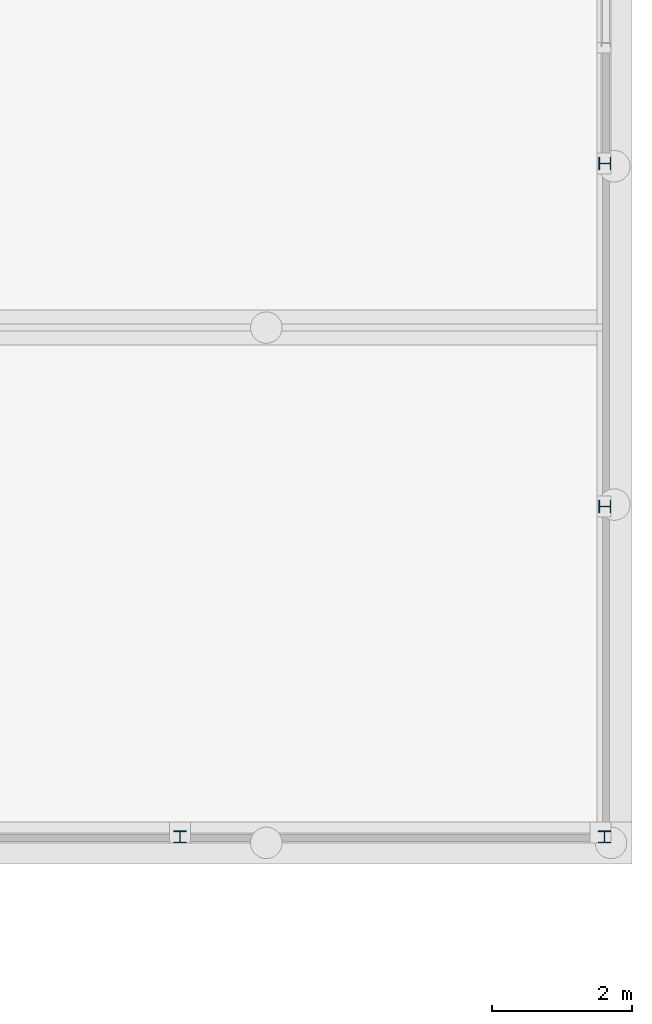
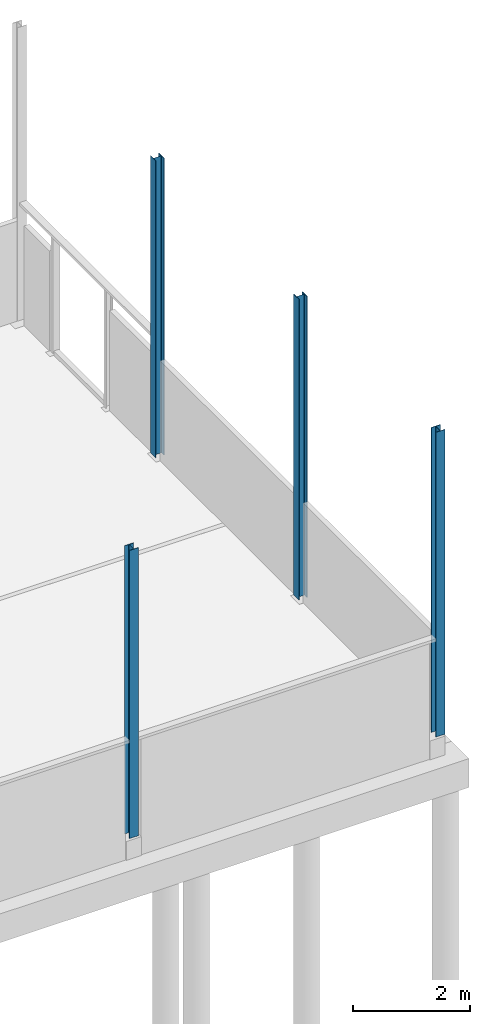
# One storey, part 6 of 18: 4 columns.
"""IFC2X3 building model written with IfcOpenShell, lengths in millimetres."""

from ifc_helpers import new_model, entity, si_unit, converted_unit, derived_unit, direction, frame, frame_2d, origin, place, context, subcontext, project, spatial, polyline, circle_curve, parameter, trimmed, segment, composite_curve, i_section, outline, extrude, source, transform, mapped, material, type_object, type_shapes, element, save


model = new_model("IFC2X3")

# Units and contexts
model_context = context("Model", 3, precision=0.01, world=origin(), true_north=direction((6.12303176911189e-17, 1.0)))
body_context = subcontext(model_context, "Body", "Model", "MODEL_VIEW")
ifc_project = project(units=[si_unit("LENGTHUNIT", "METRE", prefix="MILLI"), si_unit("AREAUNIT", "SQUARE_METRE"), si_unit("VOLUMEUNIT", "CUBIC_METRE"), converted_unit("PLANEANGLEUNIT", "DEGREE", entity("IfcRatioMeasure", 0.0174532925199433), si_unit("PLANEANGLEUNIT", "RADIAN"), dimensions=[0, 0, 0, 0, 0, 0, 0]), si_unit("MASSUNIT", "GRAM", prefix="KILO"), derived_unit("MASSDENSITYUNIT", [(si_unit("MASSUNIT", "GRAM", prefix="KILO"), 1), (si_unit("LENGTHUNIT", "METRE"), -3)]), derived_unit("MOMENTOFINERTIAUNIT", [(si_unit("LENGTHUNIT", "METRE"), 4)]), si_unit("TIMEUNIT", "SECOND"), si_unit("FREQUENCYUNIT", "HERTZ"), si_unit("THERMODYNAMICTEMPERATUREUNIT", "DEGREE_CELSIUS"), derived_unit("THERMALTRANSMITTANCEUNIT", [(si_unit("MASSUNIT", "GRAM", prefix="KILO"), 1), (si_unit("THERMODYNAMICTEMPERATUREUNIT", "KELVIN"), -1), (si_unit("TIMEUNIT", "SECOND"), -3)]), derived_unit("VOLUMETRICFLOWRATEUNIT", [(si_unit("LENGTHUNIT", "METRE"), 3), (si_unit("TIMEUNIT", "SECOND"), -1)]), si_unit("ELECTRICCURRENTUNIT", "AMPERE"), si_unit("ELECTRICVOLTAGEUNIT", "VOLT"), si_unit("POWERUNIT", "WATT"), si_unit("FORCEUNIT", "NEWTON", prefix="KILO"), si_unit("ILLUMINANCEUNIT", "LUX"), si_unit("LUMINOUSFLUXUNIT", "LUMEN"), si_unit("LUMINOUSINTENSITYUNIT", "CANDELA"), derived_unit("USERDEFINED", [(si_unit("MASSUNIT", "GRAM", prefix="KILO"), -1), (si_unit("LENGTHUNIT", "METRE"), -2), (si_unit("TIMEUNIT", "SECOND"), 3), (si_unit("LUMINOUSFLUXUNIT", "LUMEN"), 1)]), derived_unit("LINEARVELOCITYUNIT", [(si_unit("LENGTHUNIT", "METRE"), 1), (si_unit("TIMEUNIT", "SECOND"), -1)]), si_unit("PRESSUREUNIT", "PASCAL"), derived_unit("USERDEFINED", [(si_unit("LENGTHUNIT", "METRE"), -2), (si_unit("MASSUNIT", "GRAM", prefix="KILO"), 1), (si_unit("TIMEUNIT", "SECOND"), -2)]), derived_unit("LINEARFORCEUNIT", [(si_unit("MASSUNIT", "GRAM", prefix="KILO"), 1), (si_unit("LENGTHUNIT", "METRE"), 1), (si_unit("TIMEUNIT", "SECOND"), -2), (si_unit("LENGTHUNIT", "METRE"), -1)]), derived_unit("PLANARFORCEUNIT", [(si_unit("MASSUNIT", "GRAM", prefix="KILO"), 1), (si_unit("LENGTHUNIT", "METRE"), 1), (si_unit("TIMEUNIT", "SECOND"), -2), (si_unit("LENGTHUNIT", "METRE"), -2)])], contexts=[model_context])

# Site, building, storey
site_placement = place(None, origin())
site = spatial("IfcSite", under=ifc_project, at=site_placement, Name="Default", CompositionType="ELEMENT")
building_placement = place(site_placement, origin())
building = spatial("IfcBuilding", under=site, at=building_placement, CompositionType="ELEMENT")
storey_placement = place(building_placement, frame((0.0, 0.0, -1085.0)))
storey = spatial("IfcBuildingStorey", under=building, at=storey_placement, Name="-00 fundatie", CompositionType="ELEMENT", Elevation=-1085.0)

# Columns
ifc_material = material(Name="h2_staal")
column_type_1 = type_object("IfcColumnType", Name="BERSnl_28_SCO_TLB_kolom hea_gen_ISR:kolom gen hea180", PredefinedType="COLUMN", material=ifc_material)
shared_shape_1 = source(origin(), body_context, "Body", "SweptSolid", [
    extrude(i_section(OverallWidth=179.999999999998, OverallDepth=170.999999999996, WebThickness=6.00000000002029, FlangeThickness=9.49999999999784, FilletRadius=14.9999999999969, at=frame_2d((0.0, -8.66151594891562e-12), x_axis=(1.0, 0.0))), frame((59347.9270571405, 30696.2966282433, -50.0), z_axis=(0.0, 0.0, 1.0), x_axis=(0.0, -1.0, 0.0)), (0.0, 0.0, 1.0), 6204.69632014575),
])
type_shapes(column_type_1, [shared_shape_1])
column_1_placement = place(storey_placement, frame((0.0, 0.0, 1085.0)))
element("IfcColumn", 1, at=column_1_placement, inside=storey, type_object=column_type_1, Name="BERSnl_28_SCO_TLB_kolom hea_gen_ISR:kolom gen hea180", ObjectType="BERSnl_28_SCO_TLB_kolom hea_gen_ISR:kolom gen hea180", context=body_context, shape_type="MappedRepresentation", body=[
    mapped(shared_shape_1, transform((0.0, 0.0, 0.0), scale=1.0)),
])
column_type_2 = type_object("IfcColumnType", Name="BERSnl_28_SCO_TLB_kolom hea_gen_ISR:kolom gen hea180", PredefinedType="COLUMN", material=ifc_material)
shared_shape_2 = source(origin(), body_context, "Body", "SweptSolid", [
    extrude(i_section(OverallWidth=179.999999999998, OverallDepth=170.999999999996, WebThickness=6.00000000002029, FlangeThickness=9.49999999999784, FilletRadius=14.9999999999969, at=frame_2d((0.0, -8.66151594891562e-12), x_axis=(1.0, 0.0))), frame((59347.9270571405, 25796.2966282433, -50.0), z_axis=(0.0, 0.0, 1.0), x_axis=(0.0, -1.0, 0.0)), (0.0, 0.0, 1.0), 6287.14081645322),
])
type_shapes(column_type_2, [shared_shape_2])
column_2_placement = place(storey_placement, frame((0.0, 0.0, 1085.0)))
element("IfcColumn", 2, at=column_2_placement, inside=storey, type_object=column_type_2, Name="BERSnl_28_SCO_TLB_kolom hea_gen_ISR:kolom gen hea180", ObjectType="BERSnl_28_SCO_TLB_kolom hea_gen_ISR:kolom gen hea180", context=body_context, shape_type="MappedRepresentation", body=[
    mapped(shared_shape_2, transform((0.0, 0.0, 0.0), scale=1.0)),
])
column_type_3 = type_object("IfcColumnType", Name="BERSnl_28_SCO_TLB_kolom hea_gen_ISR:kolom gen hea180", PredefinedType="COLUMN", material=ifc_material)
shared_shape_3 = source(origin(), body_context, "Body", "SweptSolid", [
    extrude(outline(composite_curve([segment(polyline([(76.0, -90.0), (85.5000000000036, -90.0)]), True, "CONTINUOUS"), segment(polyline([(85.5, -90.0), (85.5, 90.0)]), True, "CONTINUOUS"), segment(polyline([(85.5, 90.0), (76.0, 90.0)]), True, "CONTINUOUS"), segment(polyline([(76.0, 90.0), (76.0, 18.0)]), True, "CONTINUOUS"), segment(trimmed(circle_curve(frame_2d((61.0, 18.0), x_axis=(1.0, 0.0)), 14.9999999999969), [parameter(269.999999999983)], [parameter(0.0)], True, "PARAMETER"), False, "CONTINUOUS"), segment(polyline([(61.0, 3.0), (-61.0, 3.0)]), True, "CONTINUOUS"), segment(trimmed(circle_curve(frame_2d((-61.0, 18.0), x_axis=(0.0, -1.0)), 14.9999999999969), [parameter(269.999999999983)], [parameter(0.0)], True, "PARAMETER"), False, "CONTINUOUS"), segment(polyline([(-76.0, 18.0), (-76.0, 90.0)]), True, "CONTINUOUS"), segment(polyline([(-76.0, 90.0), (-85.5000000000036, 90.0)]), True, "CONTINUOUS"), segment(polyline([(-85.4999999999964, 90.0), (-85.4999999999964, -90.0)]), True, "CONTINUOUS"), segment(polyline([(-85.4999999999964, -90.0), (-76.0, -90.0)]), True, "CONTINUOUS"), segment(polyline([(-76.0, -90.0), (-76.0, -18.0)]), True, "CONTINUOUS"), segment(trimmed(circle_curve(frame_2d((-61.0, -18.0), x_axis=(-1.0, 0.0)), 14.9999999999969), [parameter(269.999999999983)], [parameter(0.0)], True, "PARAMETER"), False, "CONTINUOUS"), segment(polyline([(-61.0, -3.0), (61.0, -3.0)]), True, "CONTINUOUS"), segment(trimmed(circle_curve(frame_2d((61.0, -18.0), x_axis=(0.0, 1.0)), 14.9999999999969), [parameter(269.999999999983)], [parameter(0.0)], True, "PARAMETER"), False, "CONTINUOUS"), segment(polyline([(76.0, -18.0), (76.0, -90.0)]), True, "CONTINUOUS")], self_intersect=False)), frame((59343.4270571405, 21081.7966282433, -50.0), z_axis=(0.0, 0.0, 1.0), x_axis=(0.0, -1.0, 0.0)), (0.0, 0.0, 1.0), 6366.53991401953),
])
type_shapes(column_type_3, [shared_shape_3])
column_3_placement = place(storey_placement, frame((0.0, 0.0, 1085.0)))
element("IfcColumn", 3, at=column_3_placement, inside=storey, type_object=column_type_3, Name="BERSnl_28_SCO_TLB_kolom hea_gen_ISR:kolom gen hea180", ObjectType="BERSnl_28_SCO_TLB_kolom hea_gen_ISR:kolom gen hea180", context=body_context, shape_type="MappedRepresentation", body=[
    mapped(shared_shape_3, transform((0.0, 0.0, 0.0), scale=1.0)),
])
column_type_4 = type_object("IfcColumnType", Name="BERSnl_28_SCO_TLB_kolom hea_gen_ISR:kolom gen hea180", PredefinedType="COLUMN", material=ifc_material)
shared_shape_4 = source(origin(), body_context, "Body", "SweptSolid", [
    extrude(outline(composite_curve([segment(polyline([(76.0, -90.0), (85.5000000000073, -90.0)]), True, "CONTINUOUS"), segment(polyline([(85.5000000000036, -90.0), (85.5000000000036, 90.0)]), True, "CONTINUOUS"), segment(polyline([(85.5000000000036, 90.0), (76.0, 90.0)]), True, "CONTINUOUS"), segment(polyline([(76.0, 90.0), (76.0, 18.0)]), True, "CONTINUOUS"), segment(trimmed(circle_curve(frame_2d((61.0, 18.0), x_axis=(1.0, 0.0)), 14.9999999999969), [parameter(269.999999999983)], [parameter(0.0)], True, "PARAMETER"), False, "CONTINUOUS"), segment(polyline([(61.0, 3.0), (-61.0, 3.0)]), True, "CONTINUOUS"), segment(trimmed(circle_curve(frame_2d((-61.0, 18.0), x_axis=(0.0, -1.0)), 14.9999999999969), [parameter(269.999999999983)], [parameter(0.0)], True, "PARAMETER"), False, "CONTINUOUS"), segment(polyline([(-76.0, 18.0), (-76.0, 90.0)]), True, "CONTINUOUS"), segment(polyline([(-76.0, 90.0), (-85.4999999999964, 90.0)]), True, "CONTINUOUS"), segment(polyline([(-85.4999999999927, 90.0), (-85.4999999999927, -90.0)]), True, "CONTINUOUS"), segment(polyline([(-85.4999999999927, -90.0), (-76.0, -90.0)]), True, "CONTINUOUS"), segment(polyline([(-76.0, -90.0), (-76.0, -18.0)]), True, "CONTINUOUS"), segment(trimmed(circle_curve(frame_2d((-61.0, -18.0), x_axis=(-1.0, 0.0)), 14.9999999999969), [parameter(269.999999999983)], [parameter(0.0)], True, "PARAMETER"), False, "CONTINUOUS"), segment(polyline([(-61.0, -3.0), (61.0, -3.0)]), True, "CONTINUOUS"), segment(trimmed(circle_curve(frame_2d((61.0, -18.0), x_axis=(0.0, 1.0)), 14.9999999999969), [parameter(269.999999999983)], [parameter(0.0)], True, "PARAMETER"), False, "CONTINUOUS"), segment(polyline([(76.0, -18.0), (76.0, -90.0)]), True, "CONTINUOUS")], self_intersect=False)), frame((53283.4270571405, 21081.7966282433, -50.0), z_axis=(0.0, 0.0, 1.0), x_axis=(0.0, -1.0, 0.0)), (0.0, 0.0, 1.0), 6018.3713889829),
])
type_shapes(column_type_4, [shared_shape_4])
column_4_placement = place(storey_placement, frame((0.0, 0.0, 1085.0)))
element("IfcColumn", 4, at=column_4_placement, inside=storey, type_object=column_type_4, Name="BERSnl_28_SCO_TLB_kolom hea_gen_ISR:kolom gen hea180", ObjectType="BERSnl_28_SCO_TLB_kolom hea_gen_ISR:kolom gen hea180", context=body_context, shape_type="MappedRepresentation", body=[
    mapped(shared_shape_4, transform((0.0, 0.0, 0.0), scale=1.0)),
])

save(model, "model.ifc")
